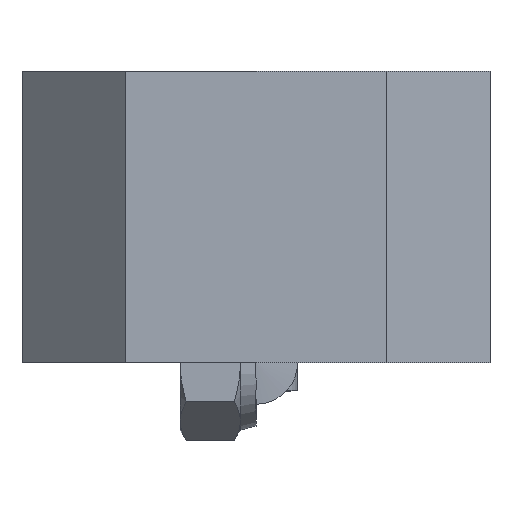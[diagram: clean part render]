
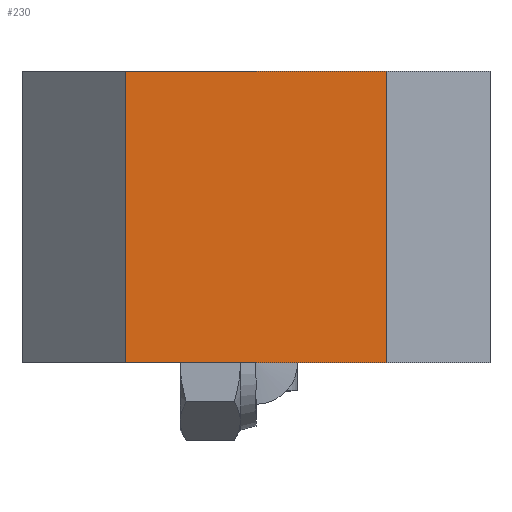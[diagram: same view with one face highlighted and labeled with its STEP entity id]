
A CAD part, left-side view. The second image highlights one B-rep face of the part: STEP entity #230.
In plain terms, the highlighted planar face has unit normal (-1, 0, 0).
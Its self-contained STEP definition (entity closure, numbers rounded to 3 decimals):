
#230 = ADVANCED_FACE( '', ( #307 ), #308, .T. );
#307 = FACE_OUTER_BOUND( '', #460, .T. );
#308 = PLANE( '', #461 );
#460 = EDGE_LOOP( '', ( #657, #658, #659, #660 ) );
#461 = AXIS2_PLACEMENT_3D( '', #661, #662, #663 );
#657 = ORIENTED_EDGE( '', *, *, #1095, .T. );
#658 = ORIENTED_EDGE( '', *, *, #1092, .T. );
#659 = ORIENTED_EDGE( '', *, *, #1069, .F. );
#660 = ORIENTED_EDGE( '', *, *, #1081, .T. );
#661 = CARTESIAN_POINT( '', ( -23., -22.5, 0. ) );
#662 = DIRECTION( '', ( -1., 0., 0. ) );
#663 = DIRECTION( '', ( 0., 0., 1. ) );
#1069 = EDGE_CURVE( '', #1207, #1208, #1209, .T. );
#1081 = EDGE_CURVE( '', #1207, #1229, #1231, .T. );
#1092 = EDGE_CURVE( '', #1249, #1208, #1250, .T. );
#1095 = EDGE_CURVE( '', #1229, #1249, #1254, .T. );
#1207 = VERTEX_POINT( '', #1435 );
#1208 = VERTEX_POINT( '', #1436 );
#1209 = LINE( '', #1437, #1438 );
#1229 = VERTEX_POINT( '', #1466 );
#1231 = LINE( '', #1469, #1470 );
#1249 = VERTEX_POINT( '', #1498 );
#1250 = LINE( '', #1499, #1500 );
#1254 = LINE( '', #1505, #1506 );
#1435 = CARTESIAN_POINT( '', ( -23., -12.5, 0. ) );
#1436 = CARTESIAN_POINT( '', ( -23., 12.5, 0. ) );
#1437 = CARTESIAN_POINT( '', ( -23., -22.5, 0. ) );
#1438 = VECTOR( '', #1865, 1000. );
#1466 = CARTESIAN_POINT( '', ( -23., -12.5, 28. ) );
#1469 = CARTESIAN_POINT( '', ( -23., -12.5, 28. ) );
#1470 = VECTOR( '', #1881, 1000. );
#1498 = CARTESIAN_POINT( '', ( -23., 12.5, 28. ) );
#1499 = CARTESIAN_POINT( '', ( -23., 12.5, 0. ) );
#1500 = VECTOR( '', #1892, 1000. );
#1505 = CARTESIAN_POINT( '', ( -23., -22.5, 28. ) );
#1506 = VECTOR( '', #1897, 1000. );
#1865 = DIRECTION( '', ( 0., 1., 0. ) );
#1881 = DIRECTION( '', ( 0., 0., 1. ) );
#1892 = DIRECTION( '', ( 0., 0., -1. ) );
#1897 = DIRECTION( '', ( 0., 1., 0. ) );
